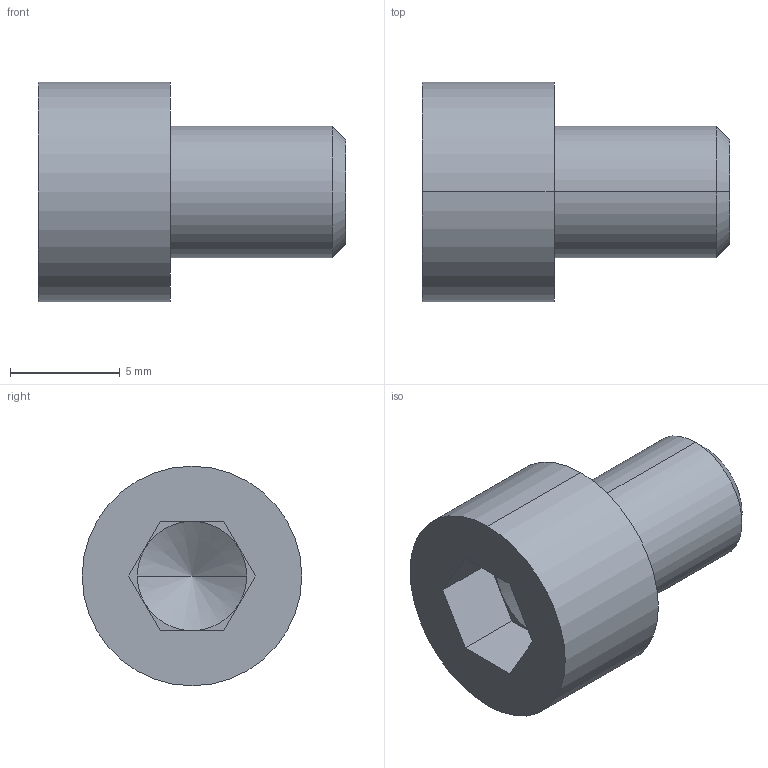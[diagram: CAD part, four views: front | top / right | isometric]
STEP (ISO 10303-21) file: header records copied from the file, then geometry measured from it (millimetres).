
FILE_DESCRIPTION (( 'STEP AP203' ), '1' );
FILE_NAME ('M6x8_DIN912.SLDPRT.STEP', '2016-05-14T08:52:09', ( '' ), ( '' ), 'SwSTEP 2.0', 'SolidWorks 2014', '' );
FILE_SCHEMA (( 'CONFIG_CONTROL_DESIGN' ));
Length unit declared in the file: millimetre
Products named in the file (1): M6x8_DIN912.SLDPRT
Bounding box: 14 x 10 x 10 mm (x, y, z)
Volume: 619.8 mm3; surface area: 544.1 mm2
Topology: 1 solids, 1 shells, 18 faces, 40 edges, 25 vertices
Faces by surface type: plane 10, cone 4, cylinder 4
Entity records: 563 total; most frequent: DIRECTION 88, CARTESIAN_POINT 82, ORIENTED_EDGE 76, EDGE_CURVE 38, AXIS2_PLACEMENT_3D 31, LINE 26, VECTOR 26, VERTEX_POINT 25
